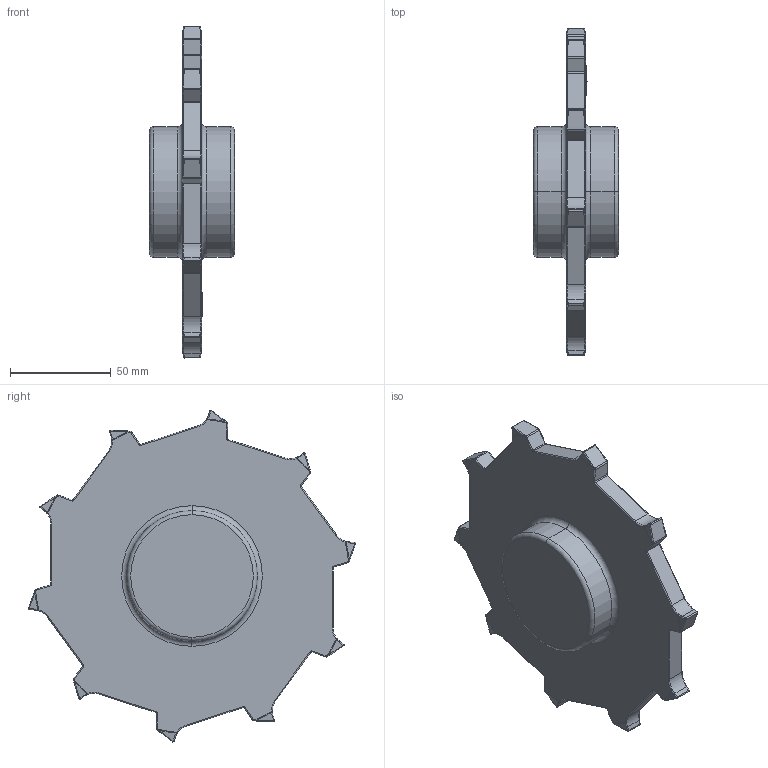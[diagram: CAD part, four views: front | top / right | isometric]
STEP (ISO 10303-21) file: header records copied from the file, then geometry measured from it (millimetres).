
FILE_DESCRIPTION((''),'2;1');
FILE_NAME('18Z10','2011-12-21T',('mth'),(''),'PRO/ENGINEER BY PARAMETRIC TECHNOLOGY CORPORATION, 2010280','PRO/ENGINEER BY PARAMETRIC TECHNOLOGY CORPORATION, 2010280','');
FILE_SCHEMA(('CONFIG_CONTROL_DESIGN','SHAPE_APPEARANCE_LAYERS_GROUPS'));
Length unit declared in the file: millimetre
Products named in the file (1): 18Z10
Bounding box: 42.3 x 162.97 x 165.18 mm (x, y, z)
Volume: 272702.8 mm3; surface area: 45863 mm2
Topology: 1 solids, 1 shells, 820 faces, 2093 edges, 1305 vertices
Faces by surface type: plane 476, bspline 110, torus 98, cylinder 94, cone 22, sphere 20
Entity records: 33167 total; most frequent: CARTESIAN_POINT 7524, ORIENTED_EDGE 4182, DIRECTION 3797, PRESENTATION_STYLE_ASSIGNMENT 2092, STYLED_ITEM 2092, CURVE_STYLE 2091, EDGE_CURVE 2091, VECTOR 1405
